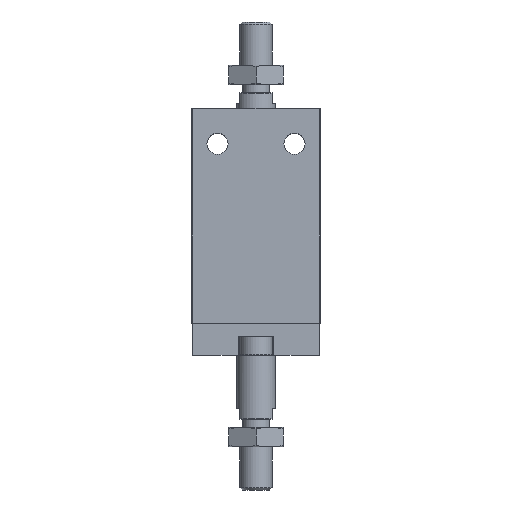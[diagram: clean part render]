
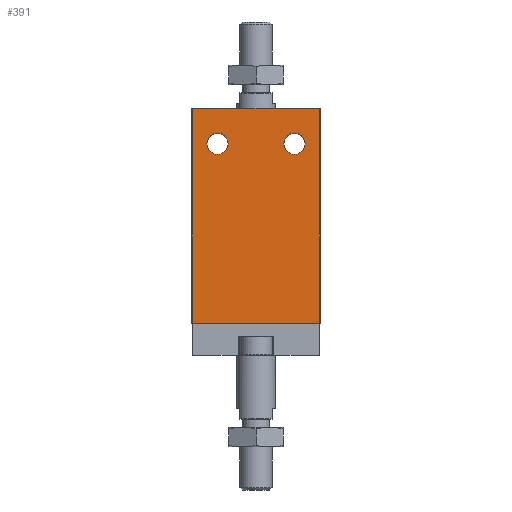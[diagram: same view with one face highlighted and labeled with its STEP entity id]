
A CAD part, front view. The second image highlights one B-rep face of the part: STEP entity #391.
In plain terms, the highlighted planar face has unit normal (0, -1, 0).
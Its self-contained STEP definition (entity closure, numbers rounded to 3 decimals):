
#391 = ADVANCED_FACE( '', ( #919, #920, #921 ), #922, .T. );
#919 = FACE_BOUND( '', #1675, .T. );
#920 = FACE_BOUND( '', #1676, .T. );
#921 = FACE_OUTER_BOUND( '', #1677, .T. );
#922 = PLANE( '', #1678 );
#1675 = EDGE_LOOP( '', ( #2608 ) );
#1676 = EDGE_LOOP( '', ( #2609 ) );
#1677 = EDGE_LOOP( '', ( #2610, #2611, #2612, #2613 ) );
#1678 = AXIS2_PLACEMENT_3D( '', #2614, #2615, #2616 );
#2608 = ORIENTED_EDGE( '', *, *, #4341, .F. );
#2609 = ORIENTED_EDGE( '', *, *, #4342, .F. );
#2610 = ORIENTED_EDGE( '', *, *, #4237, .F. );
#2611 = ORIENTED_EDGE( '', *, *, #4343, .F. );
#2612 = ORIENTED_EDGE( '', *, *, #4344, .T. );
#2613 = ORIENTED_EDGE( '', *, *, #4345, .T. );
#2614 = CARTESIAN_POINT( '', ( -19.8, -31., -67. ) );
#2615 = DIRECTION( '', ( 0., -1., 0. ) );
#2616 = DIRECTION( '', ( 1., 0., 0. ) );
#4237 = EDGE_CURVE( '', #5005, #5007, #5008, .T. );
#4341 = EDGE_CURVE( '', #5184, #5184, #5185, .T. );
#4342 = EDGE_CURVE( '', #5186, #5186, #5187, .T. );
#4343 = EDGE_CURVE( '', #5188, #5005, #5189, .T. );
#4344 = EDGE_CURVE( '', #5188, #5190, #5191, .T. );
#4345 = EDGE_CURVE( '', #5190, #5007, #5192, .T. );
#5005 = VERTEX_POINT( '', #6193 );
#5007 = VERTEX_POINT( '', #6195 );
#5008 = LINE( '', #6196, #6197 );
#5184 = VERTEX_POINT( '', #6479 );
#5185 = CIRCLE( '', #6480, 3.3 );
#5186 = VERTEX_POINT( '', #6481 );
#5187 = CIRCLE( '', #6482, 3.3 );
#5188 = VERTEX_POINT( '', #6483 );
#5189 = LINE( '', #6484, #6485 );
#5190 = VERTEX_POINT( '', #6486 );
#5191 = LINE( '', #6487, #6488 );
#5192 = LINE( '', #6489, #6490 );
#6193 = CARTESIAN_POINT( '', ( -19.8, -31., 0. ) );
#6195 = CARTESIAN_POINT( '', ( 19.8, -31., 0. ) );
#6196 = CARTESIAN_POINT( '', ( -19.8, -31., 0. ) );
#6197 = VECTOR( '', #8484, 1000. );
#6479 = CARTESIAN_POINT( '', ( -12., -31., -14.3 ) );
#6480 = AXIS2_PLACEMENT_3D( '', #8614, #8615, #8616 );
#6481 = CARTESIAN_POINT( '', ( 12., -31., -14.3 ) );
#6482 = AXIS2_PLACEMENT_3D( '', #8617, #8618, #8619 );
#6483 = CARTESIAN_POINT( '', ( -19.8, -31., -67. ) );
#6484 = CARTESIAN_POINT( '', ( -19.8, -31., -67. ) );
#6485 = VECTOR( '', #8620, 1000. );
#6486 = CARTESIAN_POINT( '', ( 19.8, -31., -67. ) );
#6487 = CARTESIAN_POINT( '', ( -19.8, -31., -67. ) );
#6488 = VECTOR( '', #8621, 1000. );
#6489 = CARTESIAN_POINT( '', ( 19.8, -31., -67. ) );
#6490 = VECTOR( '', #8622, 1000. );
#8484 = DIRECTION( '', ( 1., 0., 0. ) );
#8614 = CARTESIAN_POINT( '', ( -12., -31., -11. ) );
#8615 = DIRECTION( '', ( 0., -1., 0. ) );
#8616 = DIRECTION( '', ( 0., 0., -1. ) );
#8617 = CARTESIAN_POINT( '', ( 12., -31., -11. ) );
#8618 = DIRECTION( '', ( 0., -1., 0. ) );
#8619 = DIRECTION( '', ( 0., 0., -1. ) );
#8620 = DIRECTION( '', ( 0., 0., 1. ) );
#8621 = DIRECTION( '', ( 1., 0., 0. ) );
#8622 = DIRECTION( '', ( 0., 0., 1. ) );
